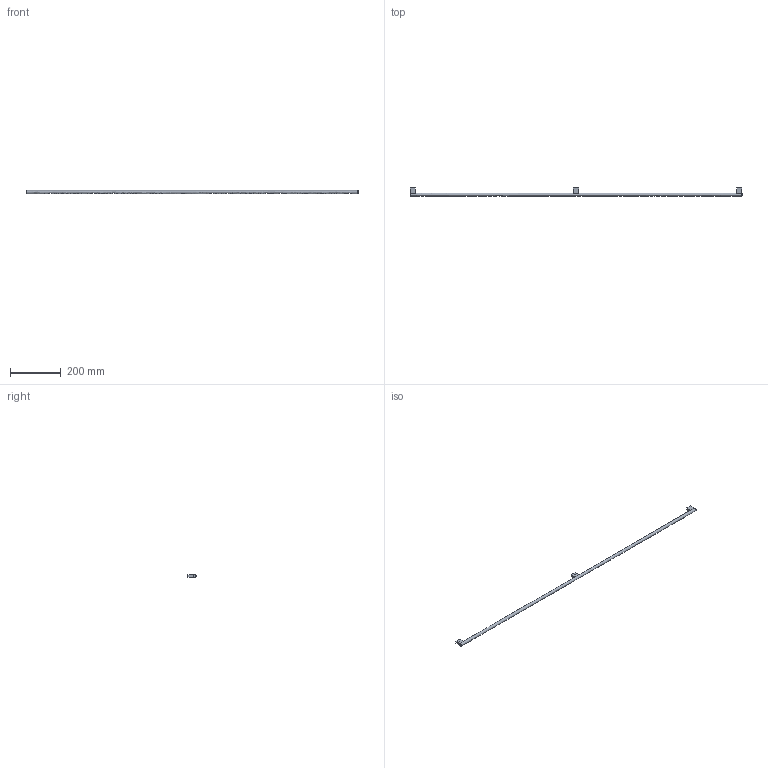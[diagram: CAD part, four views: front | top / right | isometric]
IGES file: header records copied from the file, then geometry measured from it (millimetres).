
Start section: Data from Parasolid IGES Translator 15.0.47, Copyright(c) 2006 Siemens P LM Software. All Rights Reserved.
Global section: file name:  115233.igs; native system:  By UGS Corp.; preprocessor: XPlus GENERIC/IGES 3.0; author: Noname; organization: Noname; date: 20140122.155657; units: millimetre
Bounding box: 1306 x 32 x 12 mm (x, y, z)
Surface area: 53725.2 mm2 (no closed solid volume)
Topology: 0 solids, 0 shells, 26 faces, 110 edges, 104 vertices
Faces by surface type: extrusion 20, revolution 6
